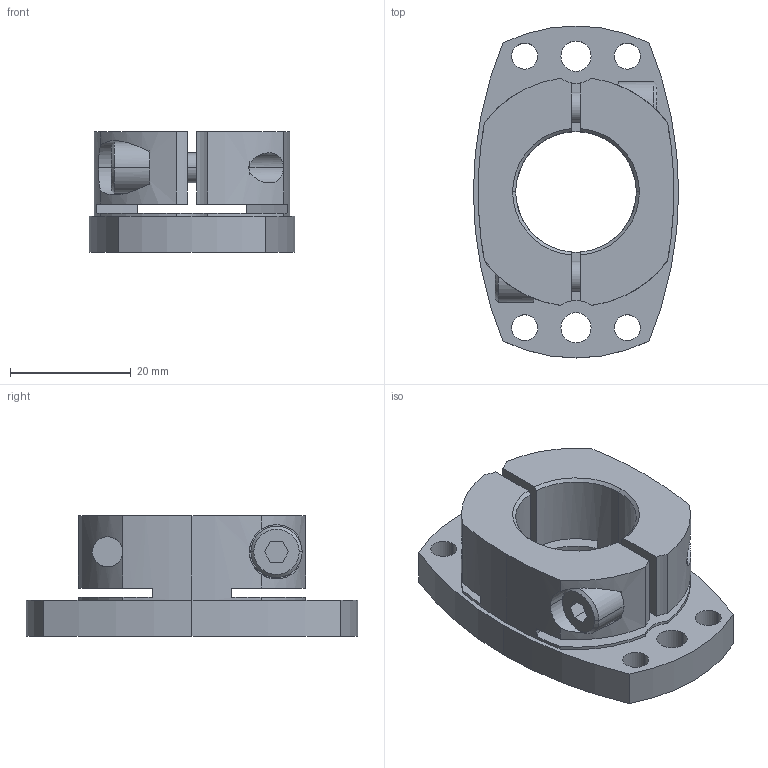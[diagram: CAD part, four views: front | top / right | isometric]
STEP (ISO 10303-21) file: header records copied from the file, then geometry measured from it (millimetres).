
FILE_DESCRIPTION((''),'2;1');
FILE_NAME('SHDB-55B-20.stp','2026-01-28T07:47:06',(''),(''),'AutoCAD STEP 2000i','AutoCAD 2000i',', , ');
FILE_SCHEMA(('CONFIG_CONTROL_DESIGN'));
Length unit declared in the file: millimetre
Products named in the file (2): SHDB-55B-20; 忣兜1
Assembly tree (1 placements, depth 2):
  SHDB-55B-20
    忣兜1
Bounding box: 34 x 55 x 20 mm (x, y, z)
Volume: 16098.5 mm3; surface area: 8609.8 mm2
Topology: 1 solids, 1 shells, 108 faces, 290 edges, 188 vertices
Faces by surface type: cylinder 62, plane 36, cone 10
Entity records: 3777 total; most frequent: CARTESIAN_POINT 836, DIRECTION 632, ORIENTED_EDGE 580, EDGE_CURVE 290, AXIS2_PLACEMENT_3D 252, VERTEX_POINT 188, CIRCLE 142, EDGE_LOOP 130
